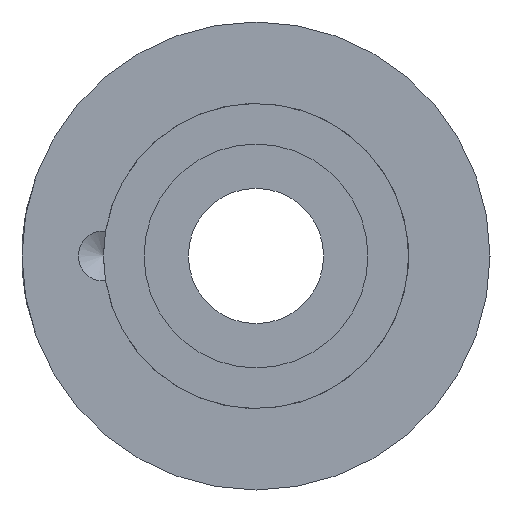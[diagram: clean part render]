
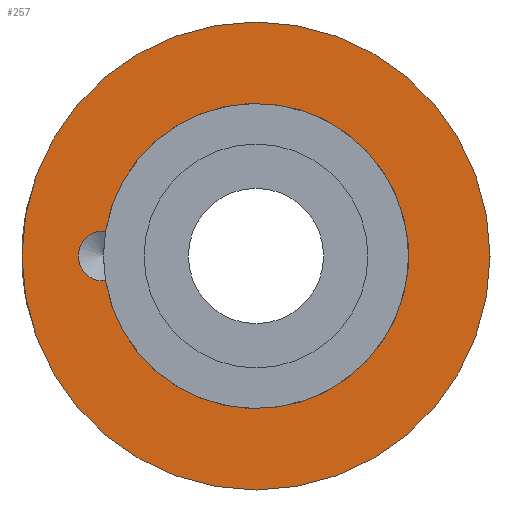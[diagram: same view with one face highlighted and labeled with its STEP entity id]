
A CAD part, left-side view. The second image highlights one B-rep face of the part: STEP entity #257.
In plain terms, the highlighted planar face has unit normal (-1, 0, 0).
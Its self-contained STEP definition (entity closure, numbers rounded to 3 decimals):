
#21=PLANE('',#310);
#26=FACE_BOUND('',#74,.T.);
#53=FACE_OUTER_BOUND('',#73,.T.);
#73=EDGE_LOOP('',(#237));
#74=EDGE_LOOP('',(#238,#239));
#108=CIRCLE('',#286,11.5);
#111=CIRCLE('',#292,1.23);
#113=CIRCLE('',#295,7.5);
#122=VERTEX_POINT('',#398);
#131=VERTEX_POINT('',#460);
#132=VERTEX_POINT('',#462);
#146=EDGE_CURVE('',#122,#122,#108,.T.);
#156=EDGE_CURVE('',#132,#131,#111,.T.);
#160=EDGE_CURVE('',#131,#132,#113,.T.);
#237=ORIENTED_EDGE('',*,*,#146,.F.);
#238=ORIENTED_EDGE('',*,*,#156,.T.);
#239=ORIENTED_EDGE('',*,*,#160,.T.);
#257=ADVANCED_FACE('',(#53,#26),#21,.T.);
#286=AXIS2_PLACEMENT_3D('',#400,#325,#326);
#292=AXIS2_PLACEMENT_3D('',#463,#340,#341);
#295=AXIS2_PLACEMENT_3D('',#469,#348,#349);
#310=AXIS2_PLACEMENT_3D('',#499,#386,#387);
#325=DIRECTION('center_axis',(1.,0.,0.));
#326=DIRECTION('ref_axis',(0.,1.,0.));
#340=DIRECTION('center_axis',(1.,0.,0.));
#341=DIRECTION('ref_axis',(0.,0.,1.));
#348=DIRECTION('center_axis',(1.,0.,0.));
#349=DIRECTION('ref_axis',(0.,-1.,0.));
#386=DIRECTION('center_axis',(-1.,0.,0.));
#387=DIRECTION('ref_axis',(0.,0.,1.));
#398=CARTESIAN_POINT('',(0.,-11.5,0.));
#400=CARTESIAN_POINT('Origin',(0.,0.,0.));
#460=CARTESIAN_POINT('',(0.,7.399,1.225));
#462=CARTESIAN_POINT('',(0.,7.399,-1.225));
#463=CARTESIAN_POINT('Origin',(0.,7.5,0.));
#469=CARTESIAN_POINT('Origin',(0.,0.,0.));
#499=CARTESIAN_POINT('Origin',(0.,5.75,0.));
